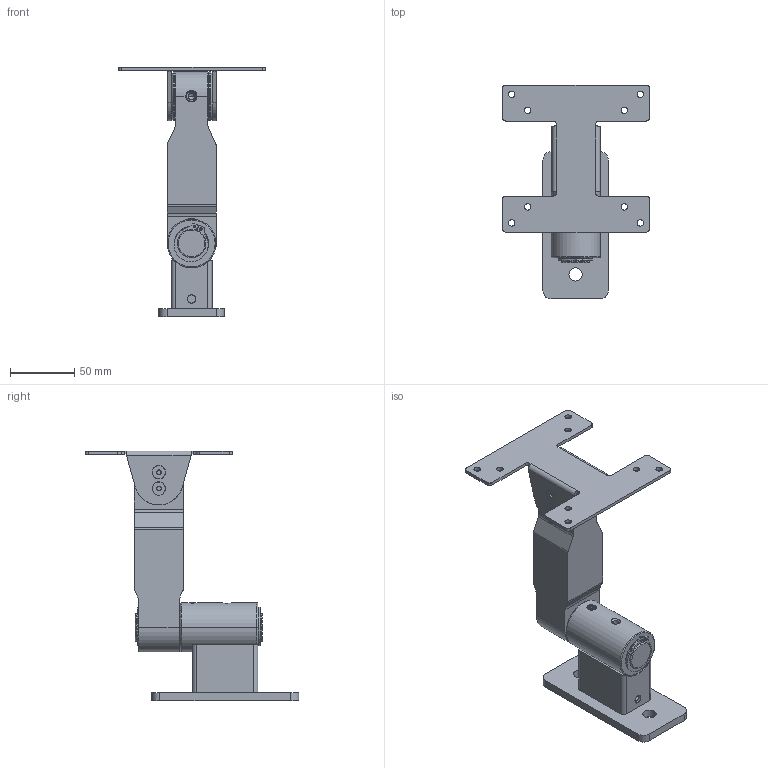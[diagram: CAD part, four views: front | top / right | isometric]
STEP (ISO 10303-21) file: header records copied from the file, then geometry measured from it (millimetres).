
FILE_DESCRIPTION (( 'STEP AP203' ), '1' );
FILE_NAME ('70-5950-00 REV AA, SINGLE MONITOR FLUSH MOUNT - STEP.STEP', '2025-07-09T23:43:32', ( '' ), ( '' ), 'SwSTEP 2.0', 'SolidWorks 2025', '' );
FILE_SCHEMA (( 'CONFIG_CONTROL_DESIGN' ));
Length unit declared in the file: inch
Products named in the file (19): 71-0218-RX REV AA, PLATE, MICRO HD, 4.5 x 2.0 x .25_Laser; 11-0028-RX REV AA, PLASTIC DISC, VESA; 70-0018-00 REV AA, MICRO HD WALL MOUNT; 016-012-00, OILITE PLUS BEARING, .876 IDx1.0 OD x 1.0; 010-012-00, RETAINING RING, EXTERNAL, .875in SHAFT; 002-088-00, FHSCS 10-32 x .5L, BO_002-088-00; 70-0048-RX REV AA, CONNECTOR PIN, 875OD x 3.9; 016-007-00, OILITE PLUS BEARING, 0.876 id x 1.002 od x 0.75 lg; 007-034-00, SHSS, .375-24, .25L_007-034-00; 70-0048-00 REV AA, CONNECTOR PIN ASSEMBLY, .875OD x 3.9; 71-0090-RX REV AA, HOUSING, MOUNT; 007-036-00, SHSS, 1''4-28, .25L_007-036-00; 11-0062-BLKX REV AA, BRACKET, VESA, SHEETMETAL, BLACK; 70-5950-00 REV AA, SINGLE MONITOR FLUSH MOUNT - STEP; 71-2113-RX REV AA, HOUSING, BEARING, TALL, 1.5OD_MACHINE; 70-0060-00 REV AA, VESA ATTACHMENT_Vertical; 41-0063-RX REV AA, PIN, TILT, VESA; 016-008-00, OILITE PLUS BEARING, 0.876 id x 1.002 od x 1.25 lg; 71-1061-RX REV AA, BODY, VESA, RAW_MACHINE
Assembly tree (25 placements, depth 3):
  70-5950-00 REV AA, SINGLE MONITOR FLUSH MOUNT - STEP
    70-0018-00 REV AA, MICRO HD WALL MOUNT
      71-0218-RX REV AA, PLATE, MICRO HD, 4.5 x 2.0 x .25_Laser
      71-0090-RX REV AA, HOUSING, MOUNT
      71-2113-RX REV AA, HOUSING, BEARING, TALL, 1.5OD_MACHINE
      016-007-00, OILITE PLUS BEARING, 0.876 id x 1.002 od x 0.75 lg
      016-008-00, OILITE PLUS BEARING, 0.876 id x 1.002 od x 1.25 lg
      007-036-00, SHSS, 1''4-28, .25L_007-036-00
    70-0060-00 REV AA, VESA ATTACHMENT_Vertical
      71-1061-RX REV AA, BODY, VESA, RAW_MACHINE
      016-008-00, OILITE PLUS BEARING, 0.876 id x 1.002 od x 1.25 lg
      016-012-00, OILITE PLUS BEARING, .876 IDx1.0 OD x 1.0
      007-034-00, SHSS, .375-24, .25L_007-034-00
      41-0063-RX REV AA, PIN, TILT, VESA
      11-0028-RX REV AA, PLASTIC DISC, VESA  x2
      11-0062-BLKX REV AA, BRACKET, VESA, SHEETMETAL, BLACK
      002-088-00, FHSCS 10-32 x .5L, BO_002-088-00  x4
      007-036-00, SHSS, 1''4-28, .25L_007-036-00
    70-0048-00 REV AA, CONNECTOR PIN ASSEMBLY, .875OD x 3.9
      70-0048-RX REV AA, CONNECTOR PIN, 875OD x 3.9
      010-012-00, RETAINING RING, EXTERNAL, .875in SHAFT  x2
Bounding box: 114.3 x 165.86 x 194.3 mm (x, y, z)
Volume: 330082.6 mm3; surface area: 124945.9 mm2
Topology: 22 solids, 22 shells, 750 faces, 1883 edges, 1173 vertices
Faces by surface type: cylinder 375, plane 162, cone 144, torus 48, bspline 21
Entity records: 19461 total; most frequent: CARTESIAN_POINT 7065, DIRECTION 2176, ORIENTED_EDGE 2124, EDGE_CURVE 1062, AXIS2_PLACEMENT_3D 869, VERTEX_POINT 664, EDGE_LOOP 502, LINE 438
